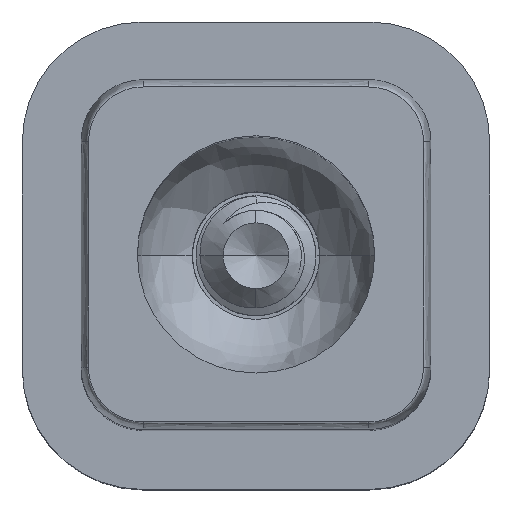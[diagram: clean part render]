
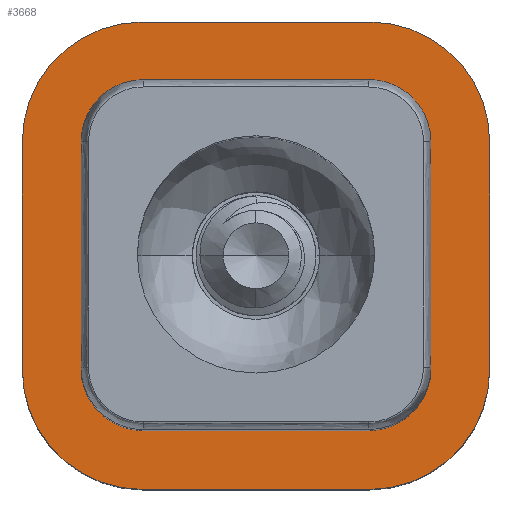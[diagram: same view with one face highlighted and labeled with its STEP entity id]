
A CAD part, top view. The second image highlights one B-rep face of the part: STEP entity #3668.
In plain terms, the highlighted planar face has unit normal (0, 0, 1).
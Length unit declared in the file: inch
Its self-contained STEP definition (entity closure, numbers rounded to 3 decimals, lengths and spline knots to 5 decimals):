
#91 = AXIS2_PLACEMENT_3D ( 'NONE', #12080, #6334, #552 ) ;
#127 = DIRECTION ( 'NONE',  ( 0., -1., 0. ) ) ;
#162 = EDGE_CURVE ( 'NONE', #12112, #11101, #2222, .T. ) ;
#213 = DIRECTION ( 'NONE',  ( 1., 0., 0. ) ) ;
#215 = ORIENTED_EDGE ( 'NONE', *, *, #4243, .F. ) ;
#303 = AXIS2_PLACEMENT_3D ( 'NONE', #2304, #9037, #3275 ) ;
#468 = AXIS2_PLACEMENT_3D ( 'NONE', #12414, #6653, #877 ) ;
#552 = DIRECTION ( 'NONE',  ( 1., 0., 0. ) ) ;
#658 = AXIS2_PLACEMENT_3D ( 'NONE', #9902, #2326, #9055 ) ;
#768 = CARTESIAN_POINT ( 'NONE',  ( 0.2375, -0.4875, 0. ) ) ;
#877 = DIRECTION ( 'NONE',  ( 1., 0., 0. ) ) ;
#1077 = EDGE_CURVE ( 'NONE', #2672, #5010, #3723, .T. ) ;
#1101 = CARTESIAN_POINT ( 'NONE',  ( 0.365, -0.365, 0. ) ) ;
#1164 = ORIENTED_EDGE ( 'NONE', *, *, #4377, .F. ) ;
#1287 = VECTOR ( 'NONE', #9651, 39.37008 ) ;
#1335 = CARTESIAN_POINT ( 'NONE',  ( -0.365, -0.235, 0. ) ) ;
#1344 = PLANE ( 'NONE',  #658 ) ;
#1476 = CARTESIAN_POINT ( 'NONE',  ( 0.365, -0.235, 0. ) ) ;
#1561 = CARTESIAN_POINT ( 'NONE',  ( -0.365, 0.365, 0. ) ) ;
#1598 = LINE ( 'NONE', #5927, #4175 ) ;
#1614 = CARTESIAN_POINT ( 'NONE',  ( -0.235, -0.365, 0. ) ) ;
#1711 = EDGE_CURVE ( 'NONE', #5438, #12112, #1598, .T. ) ;
#1855 = LINE ( 'NONE', #2808, #6980 ) ;
#1871 = CARTESIAN_POINT ( 'NONE',  ( -0.235, 0.365, 0. ) ) ;
#1913 = CARTESIAN_POINT ( 'NONE',  ( -0.235, 0.235, 0. ) ) ;
#1969 = EDGE_CURVE ( 'NONE', #7354, #7198, #5825, .T. ) ;
#1992 = EDGE_CURVE ( 'NONE', #11615, #5010, #6423, .T. ) ;
#2052 = LINE ( 'NONE', #10511, #11683 ) ;
#2222 = CIRCLE ( 'NONE', #2400, 0.25 ) ;
#2229 = EDGE_CURVE ( 'NONE', #11300, #10983, #2361, .T. ) ;
#2304 = CARTESIAN_POINT ( 'NONE',  ( 0.235, -0.235, 0. ) ) ;
#2326 = DIRECTION ( 'NONE',  ( 0., 0., -1. ) ) ;
#2354 = ORIENTED_EDGE ( 'NONE', *, *, #3365, .T. ) ;
#2361 = CIRCLE ( 'NONE', #7423, 0.13 ) ;
#2371 = ORIENTED_EDGE ( 'NONE', *, *, #4135, .F. ) ;
#2400 = AXIS2_PLACEMENT_3D ( 'NONE', #5788, #12512, #6747 ) ;
#2469 = EDGE_CURVE ( 'NONE', #11615, #10983, #2052, .T. ) ;
#2672 = VERTEX_POINT ( 'NONE', #11632 ) ;
#2758 = CIRCLE ( 'NONE', #10517, 0.25 ) ;
#2808 = CARTESIAN_POINT ( 'NONE',  ( -0.4875, 0.4875, 0. ) ) ;
#2867 = EDGE_CURVE ( 'NONE', #9914, #7354, #10480, .T. ) ;
#2898 = DIRECTION ( 'NONE',  ( 1., 0., 0. ) ) ;
#2965 = CARTESIAN_POINT ( 'NONE',  ( -0.365, -0.365, 0. ) ) ;
#3062 = VECTOR ( 'NONE', #8300, 39.37008 ) ;
#3099 = CARTESIAN_POINT ( 'NONE',  ( -0.365, 0.235, 0. ) ) ;
#3201 = CARTESIAN_POINT ( 'NONE',  ( -0.2375, 0.4875, 0. ) ) ;
#3254 = EDGE_CURVE ( 'NONE', #5437, #5438, #12117, .T. ) ;
#3275 = DIRECTION ( 'NONE',  ( 1., 0., 0. ) ) ;
#3315 = AXIS2_PLACEMENT_3D ( 'NONE', #11759, #6003, #213 ) ;
#3350 = EDGE_LOOP ( 'NONE', ( #4495, #11604, #10801, #1164, #3955, #11765, #4666, #2371 ) ) ;
#3362 = LINE ( 'NONE', #1561, #3062 ) ;
#3365 = EDGE_CURVE ( 'NONE', #11300, #4615, #6406, .T. ) ;
#3375 = FACE_BOUND ( 'NONE', #10962, .T. ) ;
#3668 = ADVANCED_FACE ( 'NONE', ( #3375, #8798 ), #1344, .F. ) ;
#3703 = ORIENTED_EDGE ( 'NONE', *, *, #1077, .T. ) ;
#3723 = LINE ( 'NONE', #1101, #6579 ) ;
#3785 = CARTESIAN_POINT ( 'NONE',  ( 0.4875, 0.2375, 0. ) ) ;
#3955 = ORIENTED_EDGE ( 'NONE', *, *, #162, .F. ) ;
#4135 = EDGE_CURVE ( 'NONE', #5742, #5437, #1855, .T. ) ;
#4175 = VECTOR ( 'NONE', #127, 39.37008 ) ;
#4243 = EDGE_CURVE ( 'NONE', #4395, #4615, #6673, .T. ) ;
#4367 = ORIENTED_EDGE ( 'NONE', *, *, #5123, .T. ) ;
#4377 = EDGE_CURVE ( 'NONE', #11101, #9914, #11182, .T. ) ;
#4395 = VERTEX_POINT ( 'NONE', #1871 ) ;
#4495 = ORIENTED_EDGE ( 'NONE', *, *, #5267, .F. ) ;
#4615 = VERTEX_POINT ( 'NONE', #3099 ) ;
#4666 = ORIENTED_EDGE ( 'NONE', *, *, #3254, .F. ) ;
#4941 = DIRECTION ( 'NONE',  ( 0., -1., 0. ) ) ;
#5010 = VERTEX_POINT ( 'NONE', #1476 ) ;
#5116 = CARTESIAN_POINT ( 'NONE',  ( -0.4875, -0.4875, 0. ) ) ;
#5123 = EDGE_CURVE ( 'NONE', #4395, #7185, #3362, .T. ) ;
#5267 = EDGE_CURVE ( 'NONE', #7198, #5742, #2758, .T. ) ;
#5437 = VERTEX_POINT ( 'NONE', #9553 ) ;
#5438 = VERTEX_POINT ( 'NONE', #3785 ) ;
#5588 = AXIS2_PLACEMENT_3D ( 'NONE', #1913, #8655, #2898 ) ;
#5627 = DIRECTION ( 'NONE',  ( 0., 0., 1. ) ) ;
#5742 = VERTEX_POINT ( 'NONE', #3201 ) ;
#5788 = CARTESIAN_POINT ( 'NONE',  ( 0.2375, -0.2375, 0. ) ) ;
#5796 = DIRECTION ( 'NONE',  ( 0., 0., -1. ) ) ;
#5825 = LINE ( 'NONE', #5116, #10646 ) ;
#5927 = CARTESIAN_POINT ( 'NONE',  ( 0.4875, -0.4875, 0. ) ) ;
#6003 = DIRECTION ( 'NONE',  ( 0., 0., -1. ) ) ;
#6013 = EDGE_CURVE ( 'NONE', #2672, #7185, #10575, .T. ) ;
#6019 = CARTESIAN_POINT ( 'NONE',  ( 0.4875, -0.2375, 0. ) ) ;
#6334 = DIRECTION ( 'NONE',  ( 0., 0., 1. ) ) ;
#6358 = ORIENTED_EDGE ( 'NONE', *, *, #1992, .F. ) ;
#6406 = LINE ( 'NONE', #2965, #1287 ) ;
#6423 = CIRCLE ( 'NONE', #303, 0.13 ) ;
#6579 = VECTOR ( 'NONE', #4941, 39.37008 ) ;
#6653 = DIRECTION ( 'NONE',  ( 0., 0., -1. ) ) ;
#6673 = CIRCLE ( 'NONE', #5588, 0.13 ) ;
#6747 = DIRECTION ( 'NONE',  ( 1., 0., 0. ) ) ;
#6980 = VECTOR ( 'NONE', #9541, 39.37008 ) ;
#7094 = ORIENTED_EDGE ( 'NONE', *, *, #6013, .F. ) ;
#7185 = VERTEX_POINT ( 'NONE', #9771 ) ;
#7198 = VERTEX_POINT ( 'NONE', #10743 ) ;
#7354 = VERTEX_POINT ( 'NONE', #9010 ) ;
#7423 = AXIS2_PLACEMENT_3D ( 'NONE', #11384, #5627, #12355 ) ;
#8300 = DIRECTION ( 'NONE',  ( 1., 0., 0. ) ) ;
#8638 = VECTOR ( 'NONE', #11537, 39.37008 ) ;
#8655 = DIRECTION ( 'NONE',  ( 0., 0., 1. ) ) ;
#8798 = FACE_OUTER_BOUND ( 'NONE', #3350, .T. ) ;
#8858 = ORIENTED_EDGE ( 'NONE', *, *, #2229, .F. ) ;
#8900 = ORIENTED_EDGE ( 'NONE', *, *, #2469, .T. ) ;
#9010 = CARTESIAN_POINT ( 'NONE',  ( -0.4875, -0.2375, 0. ) ) ;
#9037 = DIRECTION ( 'NONE',  ( 0., 0., 1. ) ) ;
#9055 = DIRECTION ( 'NONE',  ( -1., 0., 0. ) ) ;
#9541 = DIRECTION ( 'NONE',  ( 1., 0., 0. ) ) ;
#9553 = CARTESIAN_POINT ( 'NONE',  ( 0.2375, 0.4875, 0. ) ) ;
#9557 = CARTESIAN_POINT ( 'NONE',  ( -0.2375, -0.4875, 0. ) ) ;
#9651 = DIRECTION ( 'NONE',  ( 0., 1., 0. ) ) ;
#9771 = CARTESIAN_POINT ( 'NONE',  ( 0.235, 0.365, 0. ) ) ;
#9902 = CARTESIAN_POINT ( 'NONE',  ( 0., 0., 0. ) ) ;
#9914 = VERTEX_POINT ( 'NONE', #9557 ) ;
#10480 = CIRCLE ( 'NONE', #3315, 0.25 ) ;
#10511 = CARTESIAN_POINT ( 'NONE',  ( -0.365, -0.365, 0. ) ) ;
#10517 = AXIS2_PLACEMENT_3D ( 'NONE', #11543, #5796, #12526 ) ;
#10575 = CIRCLE ( 'NONE', #91, 0.13 ) ;
#10646 = VECTOR ( 'NONE', #11841, 39.37008 ) ;
#10743 = CARTESIAN_POINT ( 'NONE',  ( -0.4875, 0.2375, 0. ) ) ;
#10801 = ORIENTED_EDGE ( 'NONE', *, *, #2867, .F. ) ;
#10962 = EDGE_LOOP ( 'NONE', ( #6358, #8900, #8858, #2354, #215, #4367, #7094, #3703 ) ) ;
#10983 = VERTEX_POINT ( 'NONE', #1614 ) ;
#11101 = VERTEX_POINT ( 'NONE', #768 ) ;
#11182 = LINE ( 'NONE', #12475, #8638 ) ;
#11300 = VERTEX_POINT ( 'NONE', #1335 ) ;
#11384 = CARTESIAN_POINT ( 'NONE',  ( -0.235, -0.235, 0. ) ) ;
#11537 = DIRECTION ( 'NONE',  ( -1., 0., 0. ) ) ;
#11543 = CARTESIAN_POINT ( 'NONE',  ( -0.2375, 0.2375, 0. ) ) ;
#11604 = ORIENTED_EDGE ( 'NONE', *, *, #1969, .F. ) ;
#11615 = VERTEX_POINT ( 'NONE', #11789 ) ;
#11632 = CARTESIAN_POINT ( 'NONE',  ( 0.365, 0.235, 0. ) ) ;
#11683 = VECTOR ( 'NONE', #12396, 39.37008 ) ;
#11759 = CARTESIAN_POINT ( 'NONE',  ( -0.2375, -0.2375, 0. ) ) ;
#11765 = ORIENTED_EDGE ( 'NONE', *, *, #1711, .F. ) ;
#11789 = CARTESIAN_POINT ( 'NONE',  ( 0.235, -0.365, 0. ) ) ;
#11841 = DIRECTION ( 'NONE',  ( 0., 1., 0. ) ) ;
#12080 = CARTESIAN_POINT ( 'NONE',  ( 0.235, 0.235, 0. ) ) ;
#12112 = VERTEX_POINT ( 'NONE', #6019 ) ;
#12117 = CIRCLE ( 'NONE', #468, 0.25 ) ;
#12355 = DIRECTION ( 'NONE',  ( 1., 0., 0. ) ) ;
#12396 = DIRECTION ( 'NONE',  ( -1., 0., 0. ) ) ;
#12414 = CARTESIAN_POINT ( 'NONE',  ( 0.2375, 0.2375, 0. ) ) ;
#12475 = CARTESIAN_POINT ( 'NONE',  ( -0.4875, -0.4875, 0. ) ) ;
#12512 = DIRECTION ( 'NONE',  ( 0., 0., -1. ) ) ;
#12526 = DIRECTION ( 'NONE',  ( 1., 0., 0. ) ) ;
